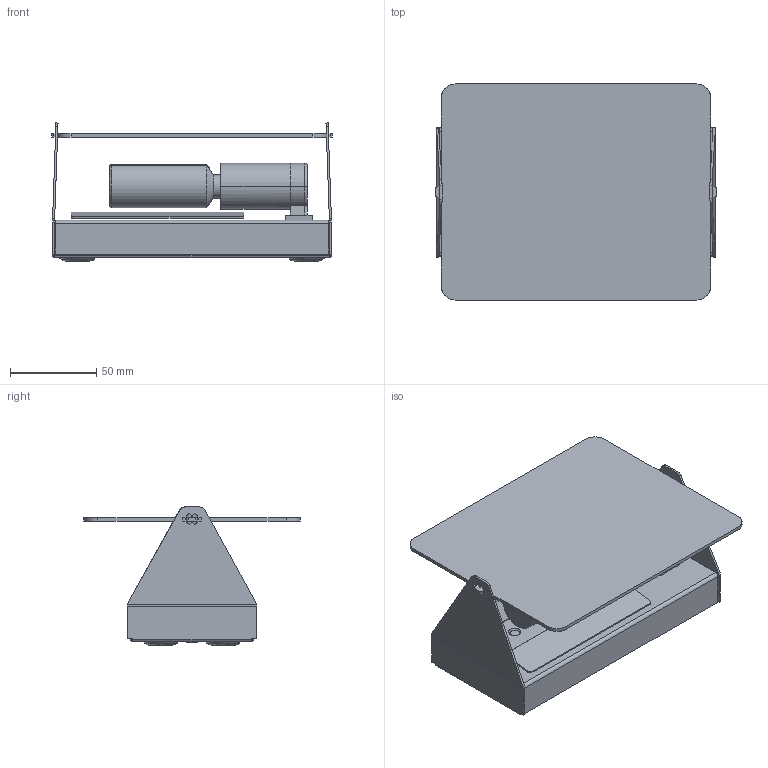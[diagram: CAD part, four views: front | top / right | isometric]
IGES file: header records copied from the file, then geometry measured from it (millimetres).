
Start section: SolidWorks IGES file using analytic representation for surfaces
Global section: file name: C:\Users\tungari.NEMOLIGHTING\Desktop\3D\WALL\3D_APPLIQUE_A_VOLET_PIVOTANT\DEF\3D_APPLIQUE_A_VOLET_PIVOTANT.IGS; native system: SolidWorks 2016; preprocessor: SolidWorks 2016; author: tungari; date: 180323.103802; units: millimetre
Bounding box: 162 x 125 x 79.92 mm (x, y, z)
Surface area: 155355.1 mm2 (no closed solid volume)
Topology: 0 solids, 0 shells, 341 faces, 4120 edges, 4120 vertices
Faces by surface type: bspline 189, revolution 152
